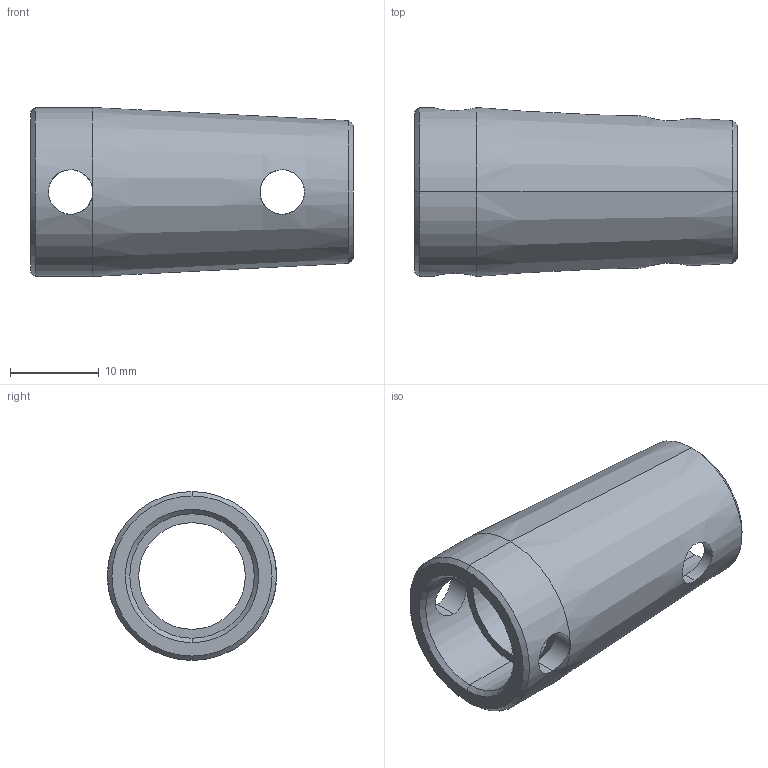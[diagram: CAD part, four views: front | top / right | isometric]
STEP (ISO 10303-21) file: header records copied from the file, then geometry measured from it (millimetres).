
FILE_DESCRIPTION (( 'STEP AP203' ), '1' );
FILE_NAME ('Abdeckhülse M12.STEP', '2018-02-20T06:49:03', ( 'install' ), ( 'Hewlett-Packard Company' ), 'SwSTEP 2.0', 'SolidWorks 2017', '' );
FILE_SCHEMA (( 'CONFIG_CONTROL_DESIGN' ));
Length unit declared in the file: millimetre
Products named in the file (1): Abdeckhülse M12
Bounding box: 36.3 x 19 x 19 mm (x, y, z)
Volume: 3779.5 mm3; surface area: 3733.5 mm2
Topology: 1 solids, 1 shells, 31 faces, 82 edges, 50 vertices
Faces by surface type: cylinder 18, cone 8, plane 5
Entity records: 1515 total; most frequent: CARTESIAN_POINT 668, ORIENTED_EDGE 164, DIRECTION 158, EDGE_CURVE 82, AXIS2_PLACEMENT_3D 66, VERTEX_POINT 50, EDGE_LOOP 38, CIRCLE 34
